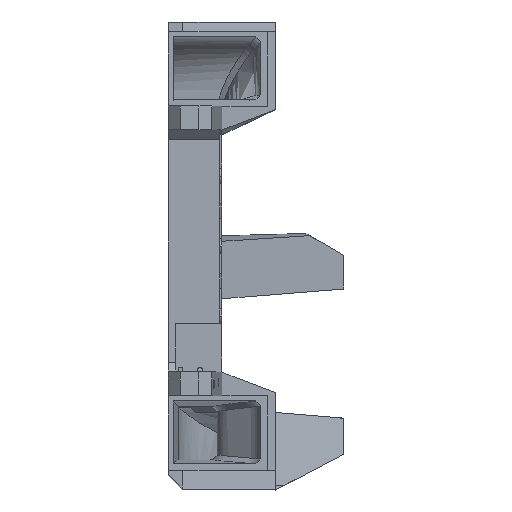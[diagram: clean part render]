
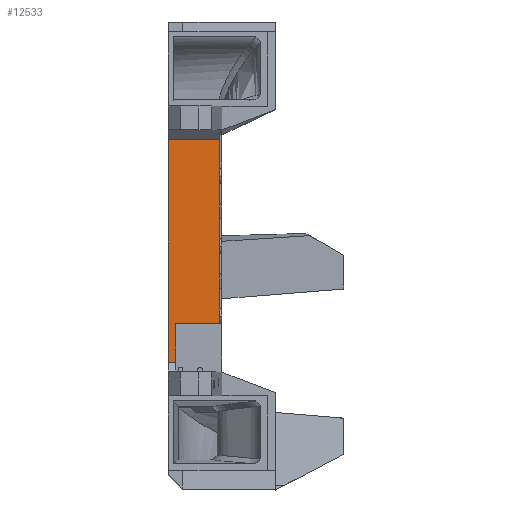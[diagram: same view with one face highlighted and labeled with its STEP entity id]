
A CAD part, top view. The second image highlights one B-rep face of the part: STEP entity #12533.
In plain terms, the highlighted planar face has unit normal (0, 0, 1).
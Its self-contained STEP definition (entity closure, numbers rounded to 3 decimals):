
#1264=ORIENTED_EDGE('',*,*,#4977,.T.);
#1265=ORIENTED_EDGE('',*,*,#4978,.T.);
#1266=ORIENTED_EDGE('',*,*,#4930,.F.);
#1267=ORIENTED_EDGE('',*,*,#4979,.T.);
#1268=ORIENTED_EDGE('',*,*,#4980,.T.);
#1269=ORIENTED_EDGE('',*,*,#4981,.T.);
#1270=ORIENTED_EDGE('',*,*,#4982,.T.);
#1271=ORIENTED_EDGE('',*,*,#4983,.T.);
#1272=ORIENTED_EDGE('',*,*,#4984,.T.);
#1273=ORIENTED_EDGE('',*,*,#4985,.T.);
#4930=EDGE_CURVE('',#6787,#6788,#7901,.T.);
#4977=EDGE_CURVE('',#6831,#6832,#7946,.T.);
#4978=EDGE_CURVE('',#6832,#6788,#7947,.T.);
#4979=EDGE_CURVE('',#6787,#6833,#7948,.T.);
#4980=EDGE_CURVE('',#6833,#6834,#7949,.T.);
#4981=EDGE_CURVE('',#6834,#6835,#7950,.T.);
#4982=EDGE_CURVE('',#6835,#6836,#7951,.T.);
#4983=EDGE_CURVE('',#6836,#6837,#7952,.T.);
#4984=EDGE_CURVE('',#6837,#6838,#7953,.T.);
#4985=EDGE_CURVE('',#6838,#6831,#7954,.T.);
#6787=VERTEX_POINT('',#19792);
#6788=VERTEX_POINT('',#19793);
#6831=VERTEX_POINT('',#19893);
#6832=VERTEX_POINT('',#19894);
#6833=VERTEX_POINT('',#19897);
#6834=VERTEX_POINT('',#19899);
#6835=VERTEX_POINT('',#19901);
#6836=VERTEX_POINT('',#19903);
#6837=VERTEX_POINT('',#19905);
#6838=VERTEX_POINT('',#19907);
#7901=LINE('',#19791,#9304);
#7946=LINE('',#19892,#9349);
#7947=LINE('',#19895,#9350);
#7948=LINE('',#19896,#9351);
#7949=LINE('',#19898,#9352);
#7950=LINE('',#19900,#9353);
#7951=LINE('',#19902,#9354);
#7952=LINE('',#19904,#9355);
#7953=LINE('',#19906,#9356);
#7954=LINE('',#19908,#9357);
#9304=VECTOR('',#15793,1000.);
#9349=VECTOR('',#15846,1000.);
#9350=VECTOR('',#15847,1000.);
#9351=VECTOR('',#15848,1000.);
#9352=VECTOR('',#15849,1000.);
#9353=VECTOR('',#15850,1000.);
#9354=VECTOR('',#15851,1000.);
#9355=VECTOR('',#15852,1000.);
#9356=VECTOR('',#15853,1000.);
#9357=VECTOR('',#15854,1000.);
#10529=EDGE_LOOP('',(#1264,#1265,#1266,#1267,#1268,#1269,#1270,#1271,#1272,
#1273));
#11294=FACE_BOUND('',#10529,.T.);
#12016=PLANE('',#14657);
#12533=ADVANCED_FACE('',(#11294),#12016,.T.);
#14657=AXIS2_PLACEMENT_3D('',#19891,#15844,#15845);
#15793=DIRECTION('',(0.,1.,0.));
#15844=DIRECTION('',(0.,0.,1.));
#15845=DIRECTION('',(1.,0.,0.));
#15846=DIRECTION('',(0.,1.,0.));
#15847=DIRECTION('',(-1.,0.,0.));
#15848=DIRECTION('',(1.,0.,0.));
#15849=DIRECTION('',(0.,1.,0.));
#15850=DIRECTION('',(1.,0.,0.));
#15851=DIRECTION('',(0.,1.,0.));
#15852=DIRECTION('',(0.,1.,0.));
#15853=DIRECTION('',(0.,1.,0.));
#15854=DIRECTION('',(0.,1.,0.));
#19791=CARTESIAN_POINT('',(-31.,-4.,20.998));
#19792=CARTESIAN_POINT('',(-31.,-2.,20.998));
#19793=CARTESIAN_POINT('',(-31.,43.7,20.998));
#19891=CARTESIAN_POINT('',(-29.5,-4.,20.998));
#19892=CARTESIAN_POINT('',(-20.472,-4.,20.998));
#19893=CARTESIAN_POINT('',(-20.472,30.525,20.998));
#19894=CARTESIAN_POINT('',(-20.472,43.7,20.998));
#19895=CARTESIAN_POINT('',(-31.,43.7,20.998));
#19896=CARTESIAN_POINT('',(-29.5,-2.,20.998));
#19897=CARTESIAN_POINT('',(-29.5,-2.,20.998));
#19898=CARTESIAN_POINT('',(-29.5,-4.,20.998));
#19899=CARTESIAN_POINT('',(-29.5,6.,20.998));
#19900=CARTESIAN_POINT('',(-29.5,6.,20.998));
#19901=CARTESIAN_POINT('',(-20.472,6.,20.998));
#19902=CARTESIAN_POINT('',(-20.472,-3.,20.998));
#19903=CARTESIAN_POINT('',(-20.472,13.175,20.998));
#19904=CARTESIAN_POINT('',(-20.472,-141.24,20.998));
#19905=CARTESIAN_POINT('',(-20.472,16.175,20.998));
#19906=CARTESIAN_POINT('',(-20.472,-3.,20.998));
#19907=CARTESIAN_POINT('',(-20.472,27.525,20.998));
#19908=CARTESIAN_POINT('',(-20.472,-141.24,20.998));
